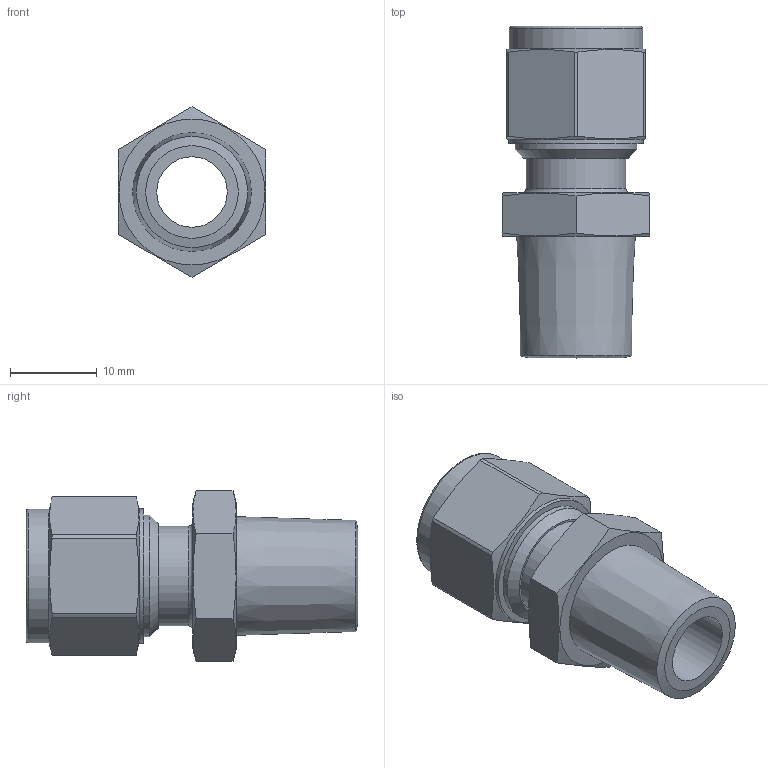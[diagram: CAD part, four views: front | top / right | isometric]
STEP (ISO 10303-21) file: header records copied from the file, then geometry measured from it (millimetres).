
FILE_DESCRIPTION( ( 'STEP AP203' ), ' ' );
FILE_NAME( 'p:/temp/worker_107/4092_3832/app_44_02016121909142639565136192d056f_000000_00_00_000000/format_4/E40262.stp', '2016-12-19T08:14:27', ( '' ), ( '' ), ' ', 'PARTsolutions', ' ' );
FILE_SCHEMA( ( 'CONFIG_CONTROL_DESIGN' ) );
Length unit declared in the file: millimetre
Products named in the file (1): _E40262
Bounding box: 17 x 38.2 x 19.63 mm (x, y, z)
Volume: 4385.2 mm3; surface area: 3425.9 mm2
Topology: 1 solids, 1 shells, 43 faces, 99 edges, 62 vertices
Faces by surface type: plane 18, cylinder 13, cone 10, torus 2
Full cylindrical faces by diameter (mm): 8.1 x1, 8.2 x1, 11.5 x2, 14 x1, 15.36 x1, 15.5 x1
Entity records: 1210 total; most frequent: CARTESIAN_POINT 300, DIRECTION 176, ORIENTED_EDGE 154, AXIS2_PLACEMENT_3D 79, EDGE_CURVE 77, EDGE_LOOP 68, VERTEX_POINT 59, FACE_OUTER_BOUND 52
